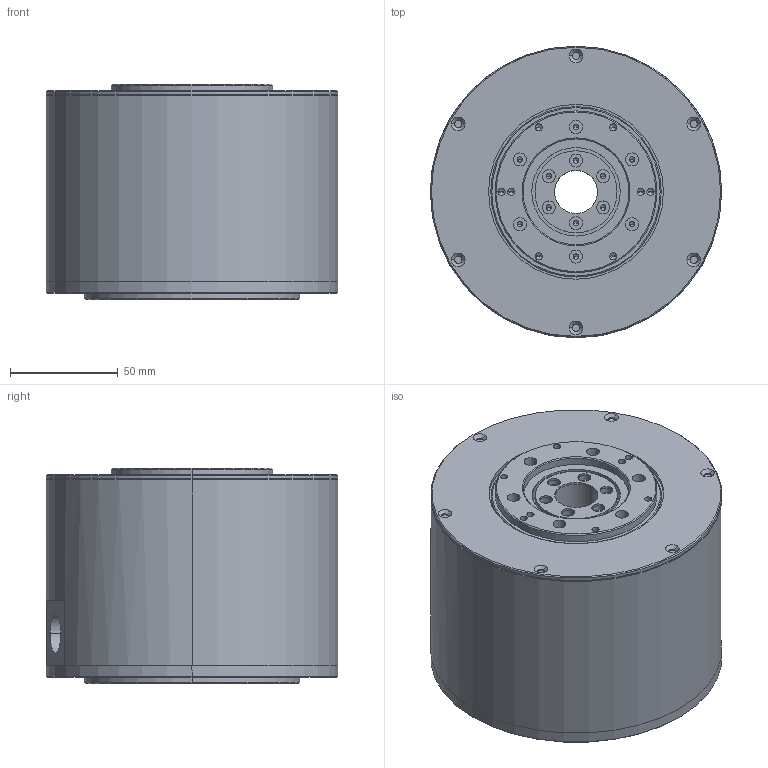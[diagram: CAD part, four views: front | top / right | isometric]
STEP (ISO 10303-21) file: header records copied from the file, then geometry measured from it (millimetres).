
FILE_DESCRIPTION((''),'2;1');
FILE_NAME('PM-DDB06D','2016-02-05T',('jb17719'),(''),'PRO/ENGINEER BY PARAMETRIC TECHNOLOGY CORPORATION, 2008070','PRO/ENGINEER BY PARAMETRIC TECHNOLOGY CORPORATION, 2008070','');
FILE_SCHEMA(('AUTOMOTIVE_DESIGN_CC2 { 1 2 10303 214 -1 1 5 2 }'));
Length unit declared in the file: millimetre
Products named in the file (7): PRT0006; PRT0007; PRT0008; PRT0009; PRT0010; DB09D_ANY; PM-DDB06D
Assembly tree (6 placements, depth 3):
  PM-DDB06D
    DB09D_ANY
      PRT0006
      PRT0007
      PRT0008
      PRT0009
      PRT0010
Bounding box: 135 x 135 x 100 mm (x, y, z)
Volume: 1312420.9 mm3; surface area: 138599 mm2
Topology: 5 solids, 5 shells, 344 faces, 812 edges, 476 vertices
Faces by surface type: cylinder 200, cone 98, plane 46
Entity records: 10022 total; most frequent: DIRECTION 1906, CARTESIAN_POINT 1582, ORIENTED_EDGE 1488, AXIS2_PLACEMENT_3D 800, EDGE_CURVE 744, VERTEX_POINT 476, EDGE_LOOP 472, CIRCLE 438
